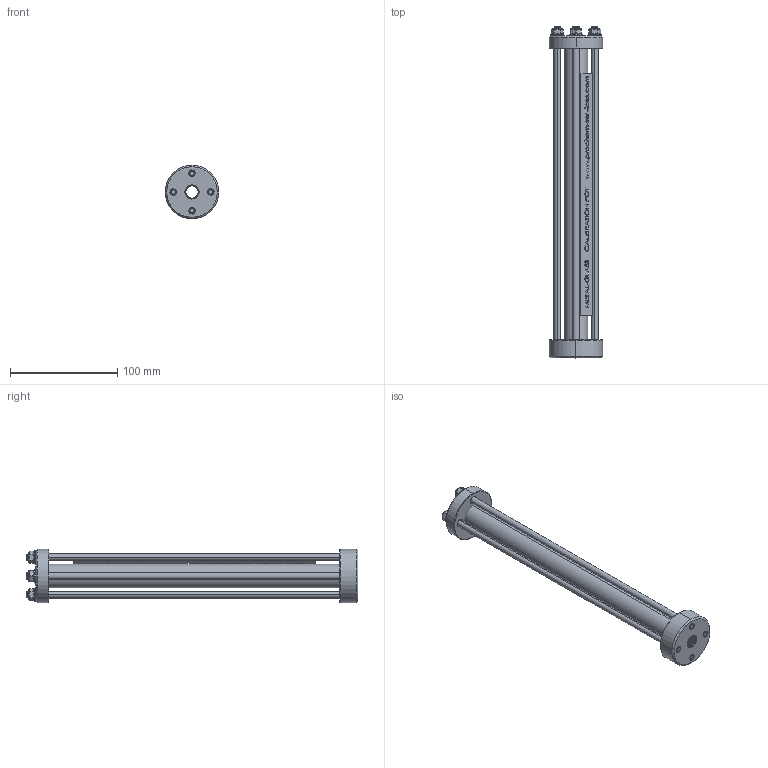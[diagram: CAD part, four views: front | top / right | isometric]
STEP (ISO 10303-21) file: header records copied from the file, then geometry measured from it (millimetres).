
FILE_DESCRIPTION (( 'STEP AP214' ), '1' );
FILE_NAME ('0.05LTR-C-11-34.STEP', '2026-01-12T12:51:18', ( '' ), ( '' ), 'SwSTEP 2.0', 'SolidWorks 2024', '' );
FILE_SCHEMA (( 'AUTOMOTIVE_DESIGN' ));
Length unit declared in the file: millimetre
Products named in the file (1): 0.05LTR-C-11-34
Bounding box: 50 x 309 x 50 mm (x, y, z)
Surface area: 60342.6 mm2 (no closed solid volume)
Topology: 0 solids, 33 shells, 691 faces, 2508 edges, 1767 vertices
Faces by surface type: bspline 222, cylinder 201, plane 192, cone 56, sphere 12, torus 8
Entity records: 64350 total; most frequent: CARTESIAN_POINT 38758, ORIENTED_EDGE 3796, DIRECTION 2818, EDGE_CURVE 2508, VERTEX_POINT 1767, VECTOR 1224, LINE 1224, AXIS2_PLACEMENT_3D 797
